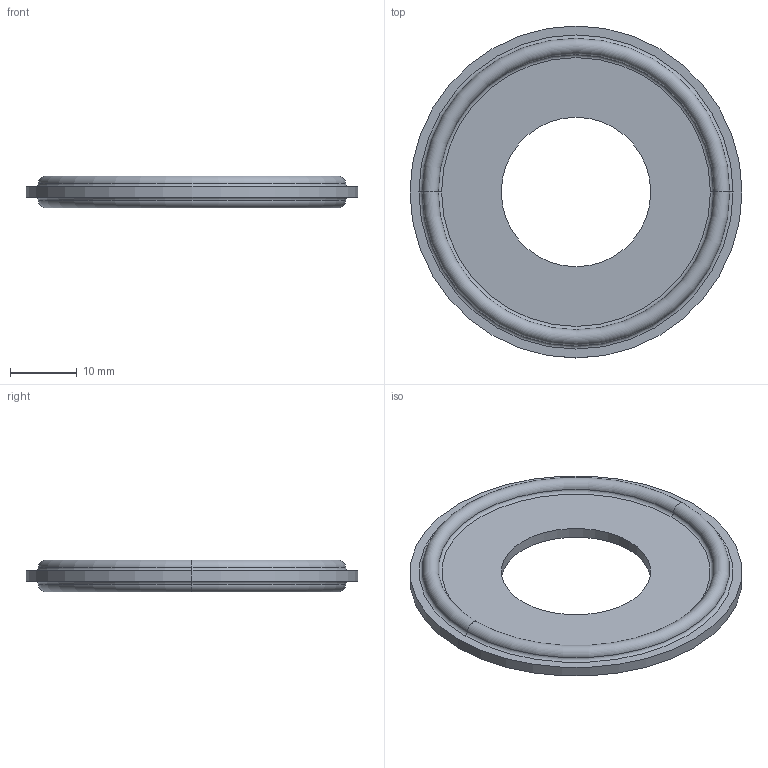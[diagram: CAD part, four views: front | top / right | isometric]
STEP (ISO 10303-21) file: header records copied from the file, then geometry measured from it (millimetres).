
FILE_DESCRIPTION (( 'STEP AP214' ), '1' );
FILE_NAME ('EG40 1.0 GASKET.STEP', '2024-10-10T10:40:11', ( '' ), ( '' ), 'SwSTEP 2.0', 'SolidWorks 2021', '' );
FILE_SCHEMA (( 'AUTOMOTIVE_DESIGN' ));
Length unit declared in the file: inch
Products named in the file (1): EG40 1.0 GASKET
Bounding box: 49.71 x 49.71 x 4.79 mm (x, y, z)
Volume: 3365.8 mm3; surface area: 3932.7 mm2
Topology: 1 solids, 1 shells, 20 faces, 40 edges, 24 vertices
Faces by surface type: torus 12, cylinder 4, plane 4
Entity records: 580 total; most frequent: DIRECTION 118, CARTESIAN_POINT 85, ORIENTED_EDGE 80, AXIS2_PLACEMENT_3D 57, EDGE_CURVE 40, CIRCLE 36, EDGE_LOOP 24, VERTEX_POINT 24
